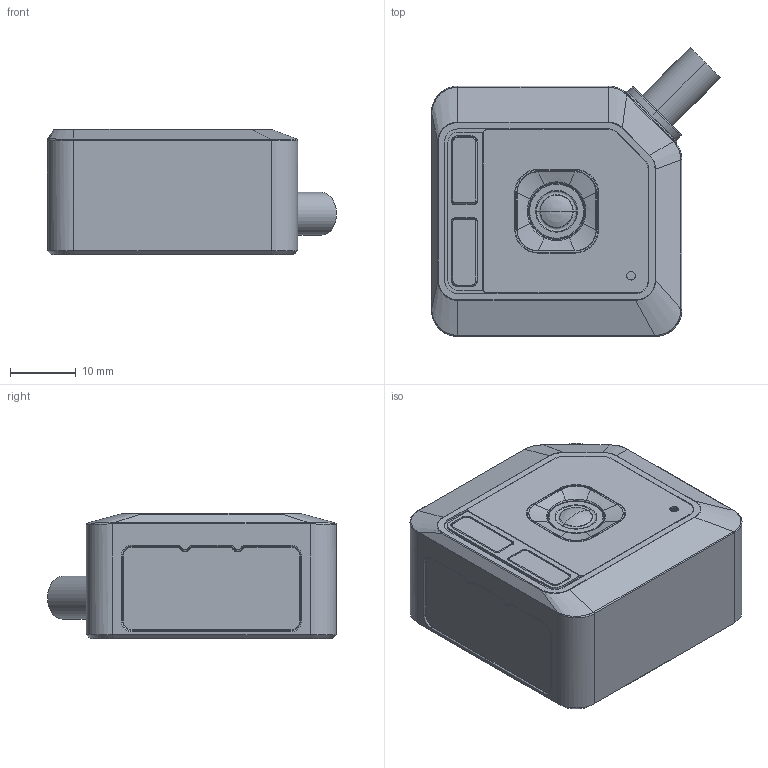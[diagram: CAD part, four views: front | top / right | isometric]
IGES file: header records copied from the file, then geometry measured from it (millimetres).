
Start section:  PTC IGES file: mv-sc1000.igs
Global section: file name: mv-sc1000.igs; native system: Creo Parametric by PTC Inc.; preprocessor: 2020044; author: qiaoxuan5; organization: Unknown; date: 20240315.155913; units: millimetre
Bounding box: 43.89 x 43.89 x 19 mm (x, y, z)
Surface area: 14856.6 mm2 (no closed solid volume)
Topology: 0 solids, 0 shells, 1412 faces, 7096 edges, 7074 vertices
Faces by surface type: revolution 957, bspline 455
